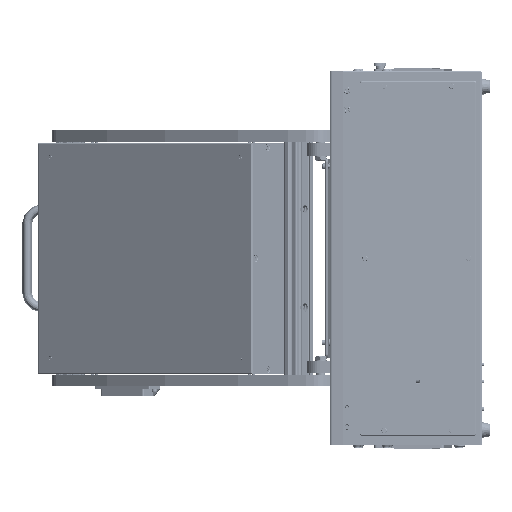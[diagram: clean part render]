
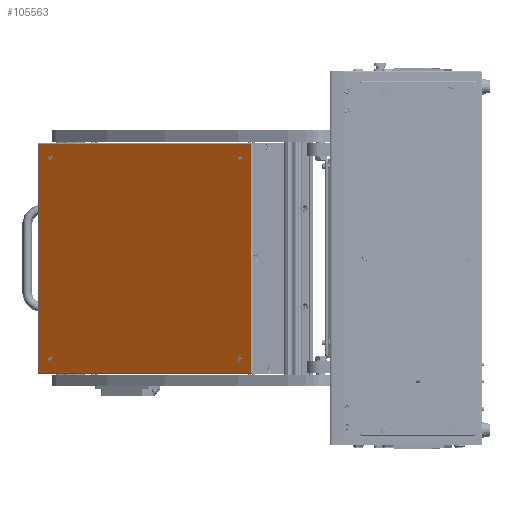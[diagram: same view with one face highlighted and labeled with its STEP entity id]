
A CAD part, left-side view. The second image highlights one B-rep face of the part: STEP entity #105563.
In plain terms, the highlighted planar face has unit normal (-0.819, 0.574, 0) as drawn and (0, -1, 0) by its records, which use the part's own axes.
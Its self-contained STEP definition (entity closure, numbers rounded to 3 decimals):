
#6422 = VERTEX_POINT ( 'NONE', #169521 ) ;
#6638 = CIRCLE ( 'NONE', #284311, 3.15 ) ;
#7086 = DIRECTION ( 'NONE',  ( 0., 0., -1. ) ) ;
#9050 = CARTESIAN_POINT ( 'NONE',  ( 171., 0., -149. ) ) ;
#11864 = VERTEX_POINT ( 'NONE', #32748 ) ;
#12083 = CIRCLE ( 'NONE', #49265, 3.15 ) ;
#13128 = CARTESIAN_POINT ( 'NONE',  ( 169., 0., 151. ) ) ;
#22918 = AXIS2_PLACEMENT_3D ( 'NONE', #172401, #55326, #173390 ) ;
#23161 = DIRECTION ( 'NONE',  ( 0., 0., -1. ) ) ;
#32748 = CARTESIAN_POINT ( 'NONE',  ( 151., 0., 127.85 ) ) ;
#47788 = CARTESIAN_POINT ( 'NONE',  ( 151., 0., 131. ) ) ;
#47859 = DIRECTION ( 'NONE',  ( 0., 0., -1. ) ) ;
#48127 = CIRCLE ( 'NONE', #48803, 3.15 ) ;
#48803 = AXIS2_PLACEMENT_3D ( 'NONE', #47788, #238935, #23161 ) ;
#49265 = AXIS2_PLACEMENT_3D ( 'NONE', #108810, #132560, #251877 ) ;
#50824 = FACE_BOUND ( 'NONE', #156493, .T. ) ;
#51360 = EDGE_CURVE ( 'NONE', #11864, #96007, #48127, .T. ) ;
#55326 = DIRECTION ( 'NONE',  ( 0., -1., 0. ) ) ;
#66337 = VERTEX_POINT ( 'NONE', #249998 ) ;
#74070 = VECTOR ( 'NONE', #253421, 1000. ) ;
#74184 = EDGE_CURVE ( 'NONE', #292523, #78469, #214309, .T. ) ;
#78469 = VERTEX_POINT ( 'NONE', #163828 ) ;
#82789 = EDGE_CURVE ( 'NONE', #96007, #11864, #140855, .T. ) ;
#83703 = FACE_BOUND ( 'NONE', #224082, .T. ) ;
#94850 = CIRCLE ( 'NONE', #120759, 3.15 ) ;
#96007 = VERTEX_POINT ( 'NONE', #112916 ) ;
#104727 = VERTEX_POINT ( 'NONE', #211106 ) ;
#105563 = ADVANCED_FACE ( 'NONE', ( #201481, #282424, #50824, #83703, #212458 ), #150815, .T. ) ;
#108810 = CARTESIAN_POINT ( 'NONE',  ( 151., 0., -131. ) ) ;
#112916 = CARTESIAN_POINT ( 'NONE',  ( 151., 0., 134.15 ) ) ;
#119988 = LINE ( 'NONE', #172624, #226900 ) ;
#120759 = AXIS2_PLACEMENT_3D ( 'NONE', #176930, #244966, #177928 ) ;
#132363 = ORIENTED_EDGE ( 'NONE', *, *, #74184, .F. ) ;
#132560 = DIRECTION ( 'NONE',  ( 0., -1., 0. ) ) ;
#132962 = AXIS2_PLACEMENT_3D ( 'NONE', #230817, #204055, #254509 ) ;
#135348 = VECTOR ( 'NONE', #288569, 1000. ) ;
#140855 = CIRCLE ( 'NONE', #132962, 3.15 ) ;
#140937 = CARTESIAN_POINT ( 'NONE',  ( 169., 0., 149. ) ) ;
#141366 = ORIENTED_EDGE ( 'NONE', *, *, #51360, .F. ) ;
#144513 = DIRECTION ( 'NONE',  ( 0., 0., -1. ) ) ;
#147528 = ORIENTED_EDGE ( 'NONE', *, *, #195718, .T. ) ;
#147961 = EDGE_LOOP ( 'NONE', ( #153157, #154381, #147528, #193908 ) ) ;
#150815 = PLANE ( 'NONE',  #22918 ) ;
#153157 = ORIENTED_EDGE ( 'NONE', *, *, #194488, .T. ) ;
#154381 = ORIENTED_EDGE ( 'NONE', *, *, #214819, .T. ) ;
#155715 = EDGE_LOOP ( 'NONE', ( #164221, #298457 ) ) ;
#156493 = EDGE_LOOP ( 'NONE', ( #264767, #258754 ) ) ;
#159141 = CARTESIAN_POINT ( 'NONE',  ( -151., 0., 127.85 ) ) ;
#160709 = VERTEX_POINT ( 'NONE', #140937 ) ;
#163828 = CARTESIAN_POINT ( 'NONE',  ( -151., 0., 134.15 ) ) ;
#164221 = ORIENTED_EDGE ( 'NONE', *, *, #229496, .F. ) ;
#166076 = LINE ( 'NONE', #223589, #74070 ) ;
#168941 = AXIS2_PLACEMENT_3D ( 'NONE', #283261, #211266, #47859 ) ;
#169521 = CARTESIAN_POINT ( 'NONE',  ( -151., 0., -127.85 ) ) ;
#171109 = CIRCLE ( 'NONE', #168941, 3.15 ) ;
#172401 = CARTESIAN_POINT ( 'NONE',  ( 0., 0., 0. ) ) ;
#172624 = CARTESIAN_POINT ( 'NONE',  ( -169., 0., -151. ) ) ;
#173390 = DIRECTION ( 'NONE',  ( 0., 0., -1. ) ) ;
#175057 = VERTEX_POINT ( 'NONE', #304063 ) ;
#176930 = CARTESIAN_POINT ( 'NONE',  ( -151., 0., -131. ) ) ;
#177928 = DIRECTION ( 'NONE',  ( 0., 0., -1. ) ) ;
#185317 = LINE ( 'NONE', #9050, #284765 ) ;
#192309 = DIRECTION ( 'NONE',  ( 0., 0., -1. ) ) ;
#193908 = ORIENTED_EDGE ( 'NONE', *, *, #227748, .T. ) ;
#194488 = EDGE_CURVE ( 'NONE', #66337, #175057, #119988, .T. ) ;
#195718 = EDGE_CURVE ( 'NONE', #104727, #160709, #197831, .T. ) ;
#197831 = LINE ( 'NONE', #13128, #135348 ) ;
#198267 = DIRECTION ( 'NONE',  ( 0., 0., -1. ) ) ;
#201245 = CARTESIAN_POINT ( 'NONE',  ( -151., 0., -134.15 ) ) ;
#201481 = FACE_OUTER_BOUND ( 'NONE', #147961, .T. ) ;
#204055 = DIRECTION ( 'NONE',  ( 0., -1., 0. ) ) ;
#211106 = CARTESIAN_POINT ( 'NONE',  ( 169., 0., -149. ) ) ;
#211157 = EDGE_CURVE ( 'NONE', #293464, #281741, #241308, .T. ) ;
#211266 = DIRECTION ( 'NONE',  ( 0., -1., 0. ) ) ;
#212458 = FACE_BOUND ( 'NONE', #283506, .T. ) ;
#212608 = EDGE_CURVE ( 'NONE', #78469, #292523, #171109, .T. ) ;
#214309 = CIRCLE ( 'NONE', #266627, 3.15 ) ;
#214344 = EDGE_CURVE ( 'NONE', #281741, #293464, #12083, .T. ) ;
#214819 = EDGE_CURVE ( 'NONE', #175057, #104727, #185317, .T. ) ;
#217887 = CARTESIAN_POINT ( 'NONE',  ( -151., 0., -131. ) ) ;
#219715 = DIRECTION ( 'NONE',  ( 1., 0., 0. ) ) ;
#223589 = CARTESIAN_POINT ( 'NONE',  ( -171., 0., 149. ) ) ;
#223986 = AXIS2_PLACEMENT_3D ( 'NONE', #232008, #261809, #144513 ) ;
#224082 = EDGE_LOOP ( 'NONE', ( #141366, #291282 ) ) ;
#226900 = VECTOR ( 'NONE', #192309, 1000. ) ;
#227748 = EDGE_CURVE ( 'NONE', #160709, #66337, #166076, .T. ) ;
#229496 = EDGE_CURVE ( 'NONE', #242128, #6422, #94850, .T. ) ;
#230817 = CARTESIAN_POINT ( 'NONE',  ( 151., 0., 131. ) ) ;
#232008 = CARTESIAN_POINT ( 'NONE',  ( 151., 0., -131. ) ) ;
#238935 = DIRECTION ( 'NONE',  ( 0., -1., 0. ) ) ;
#241308 = CIRCLE ( 'NONE', #223986, 3.15 ) ;
#242128 = VERTEX_POINT ( 'NONE', #201245 ) ;
#243319 = DIRECTION ( 'NONE',  ( 0., -1., 0. ) ) ;
#244966 = DIRECTION ( 'NONE',  ( 0., -1., 0. ) ) ;
#249998 = CARTESIAN_POINT ( 'NONE',  ( -169., 0., 149. ) ) ;
#251877 = DIRECTION ( 'NONE',  ( 0., 0., -1. ) ) ;
#253421 = DIRECTION ( 'NONE',  ( -1., 0., 0. ) ) ;
#254509 = DIRECTION ( 'NONE',  ( 0., 0., -1. ) ) ;
#258754 = ORIENTED_EDGE ( 'NONE', *, *, #214344, .F. ) ;
#261809 = DIRECTION ( 'NONE',  ( 0., -1., 0. ) ) ;
#264231 = CARTESIAN_POINT ( 'NONE',  ( 151., 0., -127.85 ) ) ;
#264767 = ORIENTED_EDGE ( 'NONE', *, *, #211157, .F. ) ;
#266627 = AXIS2_PLACEMENT_3D ( 'NONE', #291639, #243319, #7086 ) ;
#267407 = EDGE_CURVE ( 'NONE', #6422, #242128, #6638, .T. ) ;
#281741 = VERTEX_POINT ( 'NONE', #264231 ) ;
#282424 = FACE_BOUND ( 'NONE', #155715, .T. ) ;
#283261 = CARTESIAN_POINT ( 'NONE',  ( -151., 0., 131. ) ) ;
#283506 = EDGE_LOOP ( 'NONE', ( #132363, #293965 ) ) ;
#284311 = AXIS2_PLACEMENT_3D ( 'NONE', #217887, #291856, #198267 ) ;
#284765 = VECTOR ( 'NONE', #219715, 1000. ) ;
#288569 = DIRECTION ( 'NONE',  ( 0., 0., 1. ) ) ;
#291282 = ORIENTED_EDGE ( 'NONE', *, *, #82789, .F. ) ;
#291639 = CARTESIAN_POINT ( 'NONE',  ( -151., 0., 131. ) ) ;
#291856 = DIRECTION ( 'NONE',  ( 0., -1., 0. ) ) ;
#292523 = VERTEX_POINT ( 'NONE', #159141 ) ;
#293464 = VERTEX_POINT ( 'NONE', #300510 ) ;
#293965 = ORIENTED_EDGE ( 'NONE', *, *, #212608, .F. ) ;
#298457 = ORIENTED_EDGE ( 'NONE', *, *, #267407, .F. ) ;
#300510 = CARTESIAN_POINT ( 'NONE',  ( 151., 0., -134.15 ) ) ;
#304063 = CARTESIAN_POINT ( 'NONE',  ( -169., 0., -149. ) ) ;
